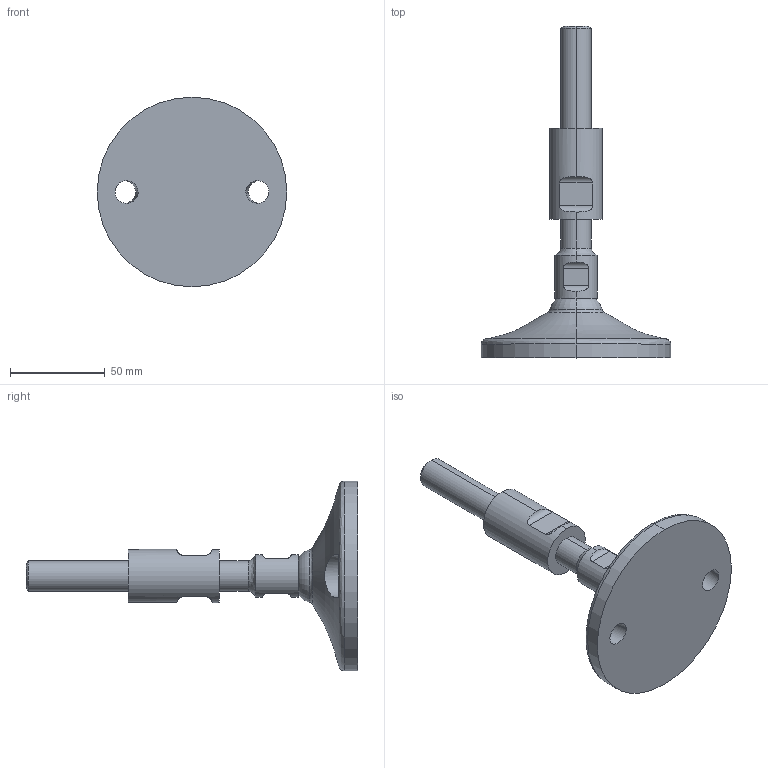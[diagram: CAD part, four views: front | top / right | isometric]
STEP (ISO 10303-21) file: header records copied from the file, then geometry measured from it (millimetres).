
FILE_DESCRIPTION (( 'STEP AP203' ), '1' );
FILE_NAME ('ハイジェニックデザイン.STEP', '2020-11-20T05:01:29', ( '' ), ( '' ), 'SwSTEP 2.0', 'SolidWorks 2017', '' );
FILE_SCHEMA (( 'CONFIG_CONTROL_DESIGN' ));
Length unit declared in the file: millimetre
Products named in the file (1): ハイジェニックデザイン
Bounding box: 100 x 175 x 100 mm (x, y, z)
Volume: 167834.7 mm3; surface area: 30434.8 mm2
Topology: 1 solids, 1 shells, 53 faces, 124 edges, 78 vertices
Faces by surface type: cylinder 26, plane 15, bspline 6, torus 4, cone 2
Entity records: 2065 total; most frequent: CARTESIAN_POINT 816, ORIENTED_EDGE 248, DIRECTION 236, EDGE_CURVE 124, AXIS2_PLACEMENT_3D 94, VERTEX_POINT 78, EDGE_LOOP 62, ADVANCED_FACE 53
